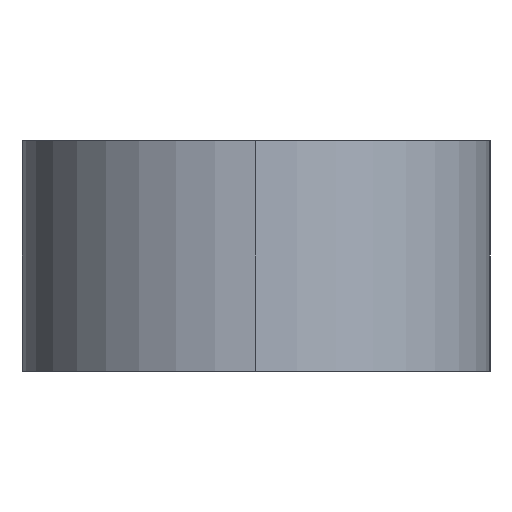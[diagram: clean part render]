
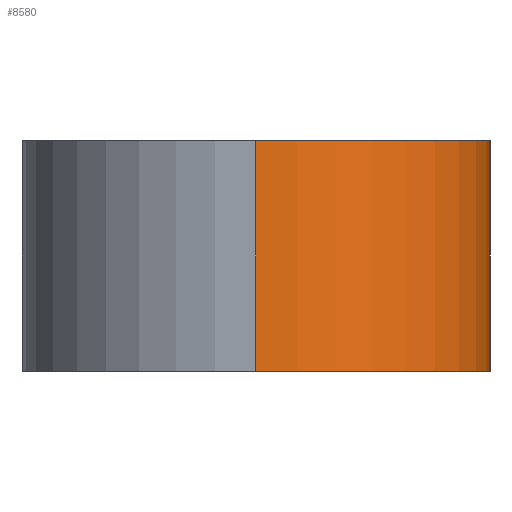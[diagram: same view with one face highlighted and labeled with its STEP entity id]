
A CAD part, left-side view. The second image highlights one B-rep face of the part: STEP entity #8580.
In plain terms, the highlighted cylindrical face has radius 6.2 mm (diameter 12.4 mm), a partial arc.
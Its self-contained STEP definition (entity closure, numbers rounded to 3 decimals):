
#225 = CARTESIAN_POINT ( 'NONE',  ( -63.35, 0., 1. ) ) ;
#845 = EDGE_LOOP ( 'NONE', ( #13235, #5448, #10709, #5664 ) ) ;
#851 = DIRECTION ( 'NONE',  ( 0., 0., 1. ) ) ;
#1032 = DIRECTION ( 'NONE',  ( 1., 0., 0. ) ) ;
#1347 = EDGE_CURVE ( 'NONE', #5605, #2127, #1705, .T. ) ;
#1705 = CIRCLE ( 'NONE', #4214, 6.2 ) ;
#2127 = VERTEX_POINT ( 'NONE', #5929 ) ;
#2538 = LINE ( 'NONE', #3818, #9758 ) ;
#2972 = DIRECTION ( 'NONE',  ( -1., 0., 0. ) ) ;
#3818 = CARTESIAN_POINT ( 'NONE',  ( -57.15, -6.2, 1. ) ) ;
#3988 = CARTESIAN_POINT ( 'NONE',  ( -57.15, 0., 3.05 ) ) ;
#4214 = AXIS2_PLACEMENT_3D ( 'NONE', #3988, #851, #1032 ) ;
#4938 = CARTESIAN_POINT ( 'NONE',  ( -63.35, 0., -3.05 ) ) ;
#5063 = EDGE_CURVE ( 'NONE', #5605, #6031, #17912, .T. ) ;
#5448 = ORIENTED_EDGE ( 'NONE', *, *, #5063, .T. ) ;
#5605 = VERTEX_POINT ( 'NONE', #6599 ) ;
#5664 = ORIENTED_EDGE ( 'NONE', *, *, #19074, .F. ) ;
#5929 = CARTESIAN_POINT ( 'NONE',  ( -57.15, -6.2, 3.05 ) ) ;
#6031 = VERTEX_POINT ( 'NONE', #4938 ) ;
#6181 = DIRECTION ( 'NONE',  ( 0., 0., -1. ) ) ;
#6599 = CARTESIAN_POINT ( 'NONE',  ( -63.35, 0., 3.05 ) ) ;
#7189 = EDGE_CURVE ( 'NONE', #6031, #19171, #19046, .T. ) ;
#7633 = CARTESIAN_POINT ( 'NONE',  ( -57.15, 0., 1. ) ) ;
#7857 = VECTOR ( 'NONE', #6181, 1000. ) ;
#8580 = ADVANCED_FACE ( 'NONE', ( #10240 ), #16267, .T. ) ;
#8916 = DIRECTION ( 'NONE',  ( 1., 0., 0. ) ) ;
#9758 = VECTOR ( 'NONE', #11576, 1000. ) ;
#10240 = FACE_OUTER_BOUND ( 'NONE', #845, .T. ) ;
#10258 = DIRECTION ( 'NONE',  ( 0., 0., 1. ) ) ;
#10689 = AXIS2_PLACEMENT_3D ( 'NONE', #14737, #10258, #8916 ) ;
#10709 = ORIENTED_EDGE ( 'NONE', *, *, #7189, .T. ) ;
#11576 = DIRECTION ( 'NONE',  ( 0., 0., -1. ) ) ;
#13235 = ORIENTED_EDGE ( 'NONE', *, *, #1347, .F. ) ;
#14737 = CARTESIAN_POINT ( 'NONE',  ( -57.15, 0., -3.05 ) ) ;
#14958 = CARTESIAN_POINT ( 'NONE',  ( -57.15, -6.2, -3.05 ) ) ;
#16267 = CYLINDRICAL_SURFACE ( 'NONE', #18173, 6.2 ) ;
#17810 = DIRECTION ( 'NONE',  ( 0., 0., -1. ) ) ;
#17912 = LINE ( 'NONE', #225, #7857 ) ;
#18173 = AXIS2_PLACEMENT_3D ( 'NONE', #7633, #17810, #2972 ) ;
#19046 = CIRCLE ( 'NONE', #10689, 6.2 ) ;
#19074 = EDGE_CURVE ( 'NONE', #2127, #19171, #2538, .T. ) ;
#19171 = VERTEX_POINT ( 'NONE', #14958 ) ;
